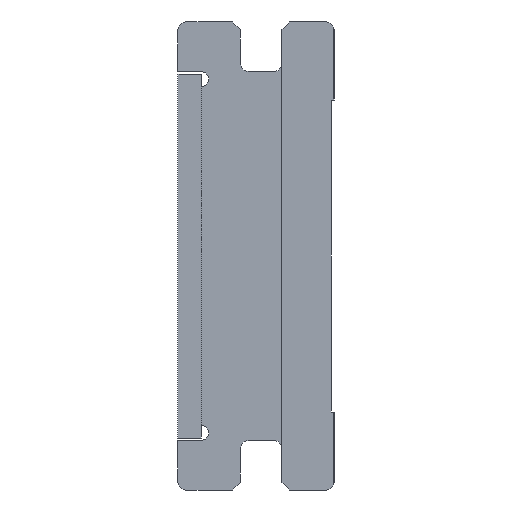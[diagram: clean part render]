
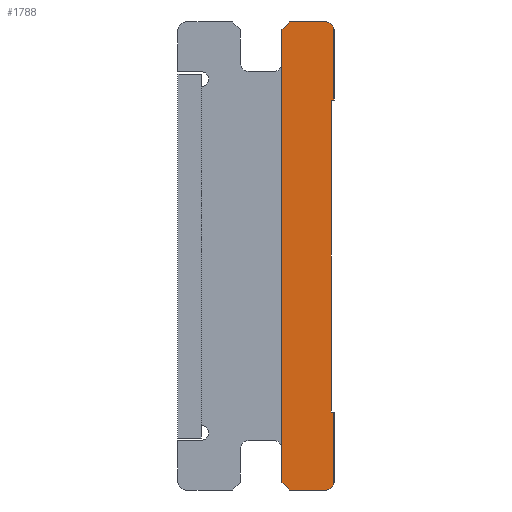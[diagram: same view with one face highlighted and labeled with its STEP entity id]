
A CAD part, left-side view. The second image highlights one B-rep face of the part: STEP entity #1788.
In plain terms, the highlighted planar face has unit normal (-1, 0, 0).
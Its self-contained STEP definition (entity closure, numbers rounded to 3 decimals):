
#49 = CARTESIAN_POINT ( 'NONE',  ( 0., 1.7, 0. ) ) ;
#59 = DIRECTION ( 'NONE',  ( 0., -1., 0. ) ) ;
#90 = LINE ( 'NONE', #307, #1715 ) ;
#137 = ORIENTED_EDGE ( 'NONE', *, *, #2060, .F. ) ;
#162 = CARTESIAN_POINT ( 'NONE',  ( 0., 0.1, -3. ) ) ;
#203 = DIRECTION ( 'NONE',  ( 1., 0., 0. ) ) ;
#204 = ORIENTED_EDGE ( 'NONE', *, *, #1145, .F. ) ;
#211 = LINE ( 'NONE', #400, #1433 ) ;
#217 = CARTESIAN_POINT ( 'NONE',  ( 0., 5.1, -15.8 ) ) ;
#266 = VECTOR ( 'NONE', #917, 1000. ) ;
#287 = DIRECTION ( 'NONE',  ( 0., 0., -1. ) ) ;
#307 = CARTESIAN_POINT ( 'NONE',  ( 0., 0., -0.3 ) ) ;
#352 = LINE ( 'NONE', #2450, #1991 ) ;
#360 = CARTESIAN_POINT ( 'NONE',  ( 0., 1.7, -18. ) ) ;
#379 = EDGE_CURVE ( 'NONE', #1526, #2121, #211, .T. ) ;
#394 = AXIS2_PLACEMENT_3D ( 'NONE', #784, #1925, #1382 ) ;
#395 = LINE ( 'NONE', #1464, #266 ) ;
#400 = CARTESIAN_POINT ( 'NONE',  ( 0., 0., -15. ) ) ;
#462 = VERTEX_POINT ( 'NONE', #829 ) ;
#484 = VERTEX_POINT ( 'NONE', #1634 ) ;
#494 = VECTOR ( 'NONE', #876, 1000. ) ;
#515 = AXIS2_PLACEMENT_3D ( 'NONE', #217, #203, #2331 ) ;
#571 = LINE ( 'NONE', #162, #1070 ) ;
#574 = CARTESIAN_POINT ( 'NONE',  ( 0., 0.3, -18. ) ) ;
#601 = FACE_OUTER_BOUND ( 'NONE', #1379, .T. ) ;
#611 = CARTESIAN_POINT ( 'NONE',  ( 0., 0.3, 0. ) ) ;
#682 = CARTESIAN_POINT ( 'NONE',  ( 0., 0., -15. ) ) ;
#748 = DIRECTION ( 'NONE',  ( 0., 1., 0. ) ) ;
#759 = VECTOR ( 'NONE', #59, 1000. ) ;
#784 = CARTESIAN_POINT ( 'NONE',  ( 0., 0.3, -17.7 ) ) ;
#829 = CARTESIAN_POINT ( 'NONE',  ( 0., 0., -3. ) ) ;
#831 = EDGE_CURVE ( 'NONE', #2439, #1526, #571, .T. ) ;
#850 = ORIENTED_EDGE ( 'NONE', *, *, #1555, .F. ) ;
#863 = LINE ( 'NONE', #1993, #494 ) ;
#867 = ORIENTED_EDGE ( 'NONE', *, *, #1690, .F. ) ;
#873 = LINE ( 'NONE', #682, #1283 ) ;
#876 = DIRECTION ( 'NONE',  ( 0., 0.707, 0.707 ) ) ;
#878 = EDGE_CURVE ( 'NONE', #1238, #1101, #1183, .T. ) ;
#904 = DIRECTION ( 'NONE',  ( 1., 0., 0. ) ) ;
#917 = DIRECTION ( 'NONE',  ( 0., 0., 1. ) ) ;
#920 = ORIENTED_EDGE ( 'NONE', *, *, #1272, .F. ) ;
#929 = ORIENTED_EDGE ( 'NONE', *, *, #831, .F. ) ;
#957 = ORIENTED_EDGE ( 'NONE', *, *, #379, .F. ) ;
#965 = CARTESIAN_POINT ( 'NONE',  ( 0., 0., -15. ) ) ;
#973 = DIRECTION ( 'NONE',  ( 0., -1., 0. ) ) ;
#979 = DIRECTION ( 'NONE',  ( 0., -0.707, 0.707 ) ) ;
#1004 = LINE ( 'NONE', #49, #1200 ) ;
#1070 = VECTOR ( 'NONE', #2279, 1000. ) ;
#1101 = VERTEX_POINT ( 'NONE', #1796 ) ;
#1145 = EDGE_CURVE ( 'NONE', #2020, #484, #863, .T. ) ;
#1183 = LINE ( 'NONE', #611, #759 ) ;
#1200 = VECTOR ( 'NONE', #979, 1000. ) ;
#1224 = VECTOR ( 'NONE', #2240, 1000. ) ;
#1238 = VERTEX_POINT ( 'NONE', #1304 ) ;
#1252 = EDGE_CURVE ( 'NONE', #462, #2439, #352, .T. ) ;
#1258 = VERTEX_POINT ( 'NONE', #2051 ) ;
#1264 = VERTEX_POINT ( 'NONE', #2243 ) ;
#1272 = EDGE_CURVE ( 'NONE', #2121, #2239, #873, .T. ) ;
#1283 = VECTOR ( 'NONE', #287, 1000. ) ;
#1289 = CARTESIAN_POINT ( 'NONE',  ( 0., 2., -0.3 ) ) ;
#1304 = CARTESIAN_POINT ( 'NONE',  ( 0., 1.7, 0. ) ) ;
#1379 = EDGE_LOOP ( 'NONE', ( #137, #2158, #204, #1801, #2241, #920, #957, #929, #1657, #850, #867, #1627 ) ) ;
#1382 = DIRECTION ( 'NONE',  ( 0., 0., -1. ) ) ;
#1433 = VECTOR ( 'NONE', #973, 1000. ) ;
#1464 = CARTESIAN_POINT ( 'NONE',  ( 0., 2., -17.7 ) ) ;
#1474 = CARTESIAN_POINT ( 'NONE',  ( 0., 0.3, -0.3 ) ) ;
#1526 = VERTEX_POINT ( 'NONE', #2219 ) ;
#1555 = EDGE_CURVE ( 'NONE', #1264, #462, #90, .T. ) ;
#1627 = ORIENTED_EDGE ( 'NONE', *, *, #878, .F. ) ;
#1634 = CARTESIAN_POINT ( 'NONE',  ( 0., 2., -17.7 ) ) ;
#1657 = ORIENTED_EDGE ( 'NONE', *, *, #1252, .F. ) ;
#1659 = VERTEX_POINT ( 'NONE', #1289 ) ;
#1679 = AXIS2_PLACEMENT_3D ( 'NONE', #1474, #904, #2038 ) ;
#1690 = EDGE_CURVE ( 'NONE', #1101, #1264, #2335, .T. ) ;
#1715 = VECTOR ( 'NONE', #1804, 1000. ) ;
#1716 = EDGE_CURVE ( 'NONE', #1258, #2020, #2423, .T. ) ;
#1734 = EDGE_CURVE ( 'NONE', #484, #1659, #395, .T. ) ;
#1788 = ADVANCED_FACE ( 'NONE', ( #601 ), #2117, .F. ) ;
#1796 = CARTESIAN_POINT ( 'NONE',  ( 0., 0.3, 0. ) ) ;
#1801 = ORIENTED_EDGE ( 'NONE', *, *, #1716, .F. ) ;
#1803 = EDGE_CURVE ( 'NONE', #2239, #1258, #2256, .T. ) ;
#1804 = DIRECTION ( 'NONE',  ( 0., 0., -1. ) ) ;
#1925 = DIRECTION ( 'NONE',  ( 1., 0., 0. ) ) ;
#1991 = VECTOR ( 'NONE', #748, 1000. ) ;
#1993 = CARTESIAN_POINT ( 'NONE',  ( 0., 1.7, -18. ) ) ;
#2020 = VERTEX_POINT ( 'NONE', #360 ) ;
#2038 = DIRECTION ( 'NONE',  ( 0., 0., 1. ) ) ;
#2051 = CARTESIAN_POINT ( 'NONE',  ( 0., 0.3, -18. ) ) ;
#2060 = EDGE_CURVE ( 'NONE', #1659, #1238, #1004, .T. ) ;
#2117 = PLANE ( 'NONE',  #515 ) ;
#2121 = VERTEX_POINT ( 'NONE', #965 ) ;
#2129 = CARTESIAN_POINT ( 'NONE',  ( 0., 0., -17.7 ) ) ;
#2141 = CARTESIAN_POINT ( 'NONE',  ( 0., 0.1, -3. ) ) ;
#2158 = ORIENTED_EDGE ( 'NONE', *, *, #1734, .F. ) ;
#2219 = CARTESIAN_POINT ( 'NONE',  ( 0., 0.1, -15. ) ) ;
#2239 = VERTEX_POINT ( 'NONE', #2129 ) ;
#2240 = DIRECTION ( 'NONE',  ( 0., 1., 0. ) ) ;
#2241 = ORIENTED_EDGE ( 'NONE', *, *, #1803, .F. ) ;
#2243 = CARTESIAN_POINT ( 'NONE',  ( 0., 0., -0.3 ) ) ;
#2256 = CIRCLE ( 'NONE', #394, 0.3 ) ;
#2279 = DIRECTION ( 'NONE',  ( 0., 0., -1. ) ) ;
#2331 = DIRECTION ( 'NONE',  ( 0., 1., 0. ) ) ;
#2335 = CIRCLE ( 'NONE', #1679, 0.3 ) ;
#2423 = LINE ( 'NONE', #574, #1224 ) ;
#2439 = VERTEX_POINT ( 'NONE', #2141 ) ;
#2450 = CARTESIAN_POINT ( 'NONE',  ( 0., 0., -3. ) ) ;
